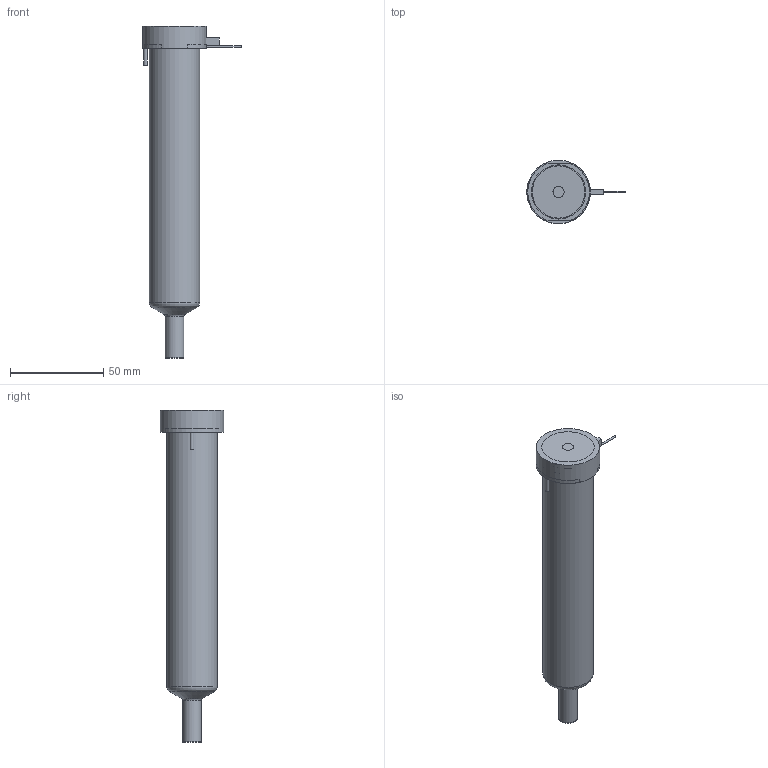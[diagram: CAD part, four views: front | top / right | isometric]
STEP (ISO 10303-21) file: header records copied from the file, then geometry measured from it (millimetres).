
FILE_DESCRIPTION(/* description */ (''),/* implementation_level */ '2;1');
FILE_NAME(/* name */ 'BXYCN13145N4F_200C_a',/* time_stamp */ '2016-02-18T13:21:31+13:00',/* author */ (''),/* organization */ (''),/* preprocessor_version */ 'ST-DEVELOPER v9',/* originating_system */ 'UGS - NX 4.0',/* authorisation */ '');
FILE_SCHEMA (('CONFIG_CONTROL_DESIGN'));
Length unit declared in the file: millimetre
Products named in the file (1): matt4A4Bpkg6
Bounding box: 52.65 x 34 x 177.66 mm (x, y, z)
Volume: 156983.7 mm3; surface area: 30317.9 mm2
Topology: 2 solids, 2 shells, 64 faces, 137 edges, 89 vertices
Faces by surface type: plane 29, cylinder 21, torus 7, cone 5, bspline 1, sphere 1
Full cylindrical faces by diameter (mm): 1 x2, 1.8 x1, 2 x1, 4 x1, 6 x1, 9.61 x1, 9.995 x2, 12.6 x1, 22.2 x1, 27 x1, 34 x1
Entity records: 1835 total; most frequent: CARTESIAN_POINT 464, DIRECTION 282, ORIENTED_EDGE 212, AXIS2_PLACEMENT_3D 122, EDGE_CURVE 106, EDGE_LOOP 102, VERTEX_POINT 82, ADVANCED_FACE 64
